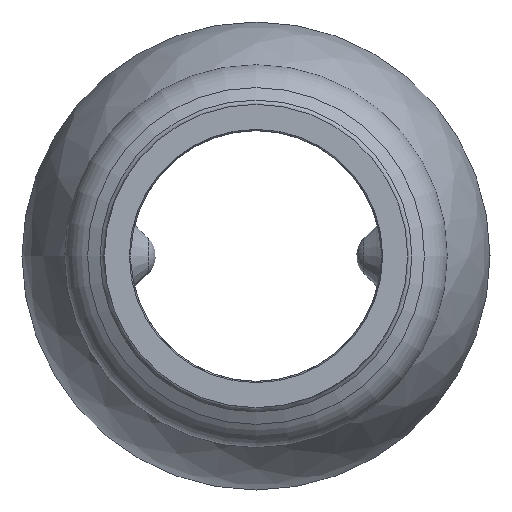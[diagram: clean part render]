
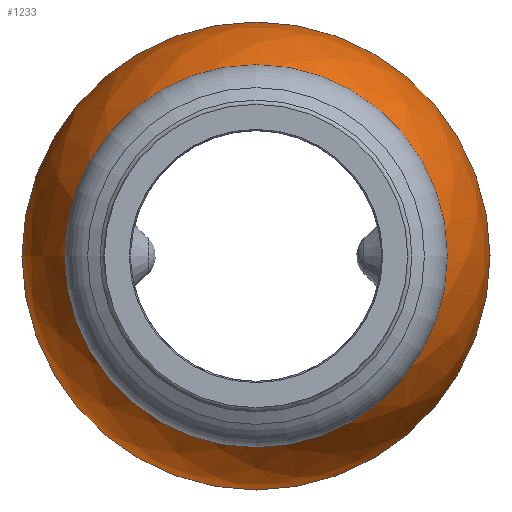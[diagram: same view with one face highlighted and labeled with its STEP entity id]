
A CAD part, left-side view. The second image highlights one B-rep face of the part: STEP entity #1233.
In plain terms, the highlighted free-form (B-spline) face has degree [2, 2] with [3, 9] control points.
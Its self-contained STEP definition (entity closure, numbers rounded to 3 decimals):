
#1169=CARTESIAN_POINT('',(-44.474,9.152,0.0));
#1170=VERTEX_POINT('',#1169);
#1171=CARTESIAN_POINT('',(-44.474,0.0,0.0));
#1172=DIRECTION('',(1.0,0.0,0.0));
#1173=DIRECTION('',(0.0,1.0,0.0));
#1174=AXIS2_PLACEMENT_3D('',#1171,#1172,#1173);
#1175=CIRCLE('',#1174,9.152);
#1176=EDGE_CURVE('',#1170,#1170,#1175,.T.);
#1184=CARTESIAN_POINT('',(-44.474,0.,9.152));
#1185=CARTESIAN_POINT('',(-39.761,0.,14.));
#1186=CARTESIAN_POINT('',(-33.0,0.,14.));
#1187=CARTESIAN_POINT('',(-44.474,9.152,9.152));
#1188=CARTESIAN_POINT('',(-39.761,14.,14.));
#1189=CARTESIAN_POINT('',(-33.0,14.,14.));
#1190=CARTESIAN_POINT('',(-44.474,9.152,0.));
#1191=CARTESIAN_POINT('',(-39.761,14.,0.));
#1192=CARTESIAN_POINT('',(-33.0,14.,0.));
#1193=CARTESIAN_POINT('',(-44.474,9.152,-9.152));
#1194=CARTESIAN_POINT('',(-39.761,14.,-14.));
#1195=CARTESIAN_POINT('',(-33.0,14.,-14.));
#1196=CARTESIAN_POINT('',(-44.474,0.,-9.152));
#1197=CARTESIAN_POINT('',(-39.761,0.,-14.));
#1198=CARTESIAN_POINT('',(-33.0,0.,-14.));
#1199=CARTESIAN_POINT('',(-44.474,-9.152,-9.152));
#1200=CARTESIAN_POINT('',(-39.761,-14.,-14.));
#1201=CARTESIAN_POINT('',(-33.0,-14.,-14.));
#1202=CARTESIAN_POINT('',(-44.474,-9.152,0.));
#1203=CARTESIAN_POINT('',(-39.761,-14.,0.));
#1204=CARTESIAN_POINT('',(-33.0,-14.,0.));
#1205=CARTESIAN_POINT('',(-44.474,-9.152,9.152));
#1206=CARTESIAN_POINT('',(-39.761,-14.,14.));
#1207=CARTESIAN_POINT('',(-33.0,-14.,14.));
#1208=CARTESIAN_POINT('',(-44.474,0.,9.152));
#1209=CARTESIAN_POINT('',(-39.761,0.,14.));
#1210=CARTESIAN_POINT('',(-33.0,0.,14.));
#1218=(BOUNDED_SURFACE()B_SPLINE_SURFACE(2,2,((#1184,#1187,#1190,#1193,#1196,#1199,#1202,#1205,#1208),(#1185,#1188,#1191,#1194,#1197,#1200,#1203,#1206,#1209),(#1186,#1189,#1192,#1195,#1198,#1201,#1204,#1207,#1210)),.UNSPECIFIED.,.F.,.T.,.U.)B_SPLINE_SURFACE_WITH_KNOTS((3,3),(3,2,2,2,3),(-0.8,0.0),(0.0,1.571,3.142,4.712,6.283),.UNSPECIFIED.)GEOMETRIC_REPRESENTATION_ITEM()RATIONAL_B_SPLINE_SURFACE(((1.0,0.707,1.0,0.707,1.0,0.707,1.0,0.707,1.0),(0.921,0.651,0.921,0.651,0.921,0.651,0.921,0.651,0.921),(1.0,0.707,1.0,0.707,1.0,0.707,1.0,0.707,1.0)))REPRESENTATION_ITEM('')SURFACE());
#1219=CARTESIAN_POINT('',(-33.0,14.,0.0));
#1220=VERTEX_POINT('',#1219);
#1221=CARTESIAN_POINT('',(-33.0,0.0,0.0));
#1222=DIRECTION('',(1.0,0.0,0.0));
#1223=DIRECTION('',(0.0,1.0,0.0));
#1224=AXIS2_PLACEMENT_3D('',#1221,#1222,#1223);
#1225=CIRCLE('',#1224,14.);
#1226=EDGE_CURVE('',#1220,#1220,#1225,.T.);
#1227=ORIENTED_EDGE('',*,*,#1226,.F.);
#1228=EDGE_LOOP('',(#1227));
#1229=FACE_OUTER_BOUND('',#1228,.T.);
#1230=ORIENTED_EDGE('',*,*,#1176,.T.);
#1231=EDGE_LOOP('',(#1230));
#1232=FACE_BOUND('',#1231,.T.);
#1233=ADVANCED_FACE('',(#1229,#1232),#1218,.T.);
